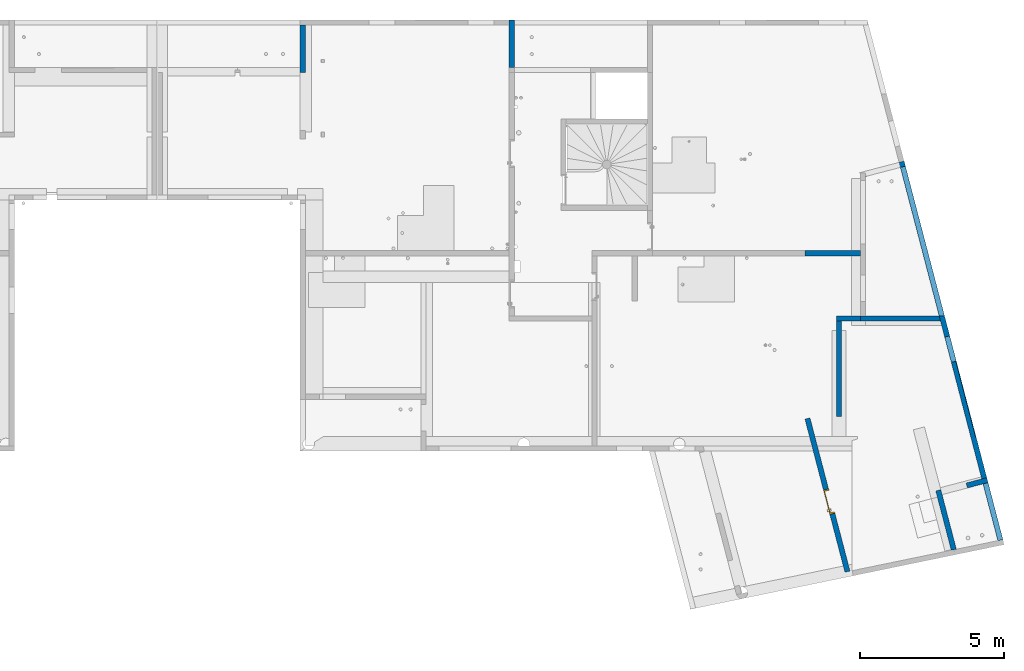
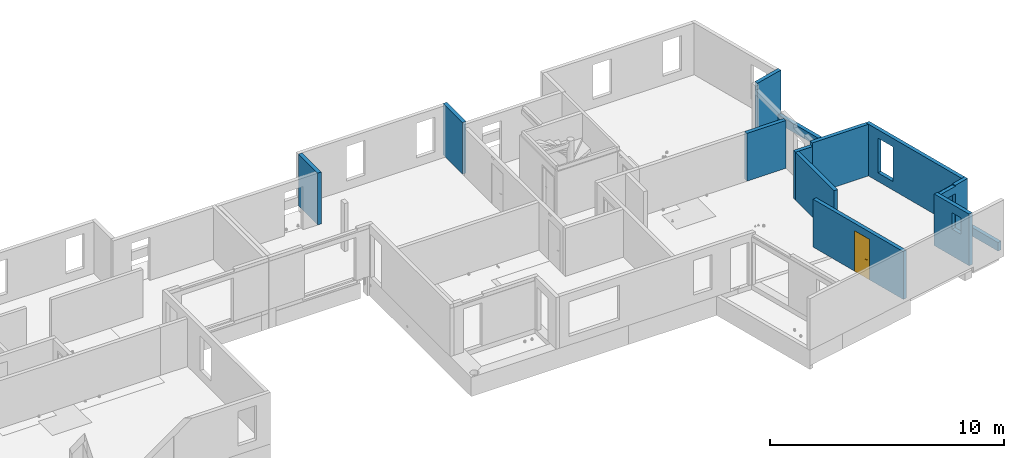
# One storey, part 18 of 34: 13 walls, 1 door, 9 openings.
"""IFC2X3 building model written with IfcOpenShell, lengths in centimetres."""

from ifc_helpers import new_model, entity, si_unit, converted_unit, derived_unit, direction, frame, frame_2d, origin, place, context, subcontext, project, spatial, polyline, rectangle, outline, extrude, faceted_brep, source, transform, mapped, material, material_list, layer, layer_set, layer_usage, type_object, type_shapes, element, fill, save


model = new_model("IFC2X3")

# Units and contexts
model_context = context("Model", 3, precision=0.001, world=origin(), true_north=direction((6.12303176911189e-17, 1.0)))
body_context = subcontext(model_context, "Body", "Model", "MODEL_VIEW")
ifc_project = project(units=[si_unit("LENGTHUNIT", "METRE", prefix="CENTI"), si_unit("AREAUNIT", "SQUARE_METRE"), si_unit("VOLUMEUNIT", "CUBIC_METRE"), converted_unit("PLANEANGLEUNIT", "DEGREE", entity("IfcRatioMeasure", 0.0174532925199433), si_unit("PLANEANGLEUNIT", "RADIAN"), dimensions=[0, 0, 0, 0, 0, 0, 0]), si_unit("MASSUNIT", "GRAM", prefix="KILO"), derived_unit("MASSDENSITYUNIT", [(si_unit("MASSUNIT", "GRAM", prefix="KILO"), 1), (si_unit("LENGTHUNIT", "METRE"), -3)]), si_unit("TIMEUNIT", "SECOND"), si_unit("FREQUENCYUNIT", "HERTZ"), si_unit("THERMODYNAMICTEMPERATUREUNIT", "DEGREE_CELSIUS"), derived_unit("THERMALTRANSMITTANCEUNIT", [(si_unit("MASSUNIT", "GRAM", prefix="KILO"), 1), (si_unit("THERMODYNAMICTEMPERATUREUNIT", "KELVIN"), -1), (si_unit("TIMEUNIT", "SECOND"), -3)]), derived_unit("VOLUMETRICFLOWRATEUNIT", [(si_unit("LENGTHUNIT", "METRE"), 3), (si_unit("TIMEUNIT", "SECOND"), -1)]), si_unit("ELECTRICCURRENTUNIT", "AMPERE"), si_unit("ELECTRICVOLTAGEUNIT", "VOLT"), si_unit("POWERUNIT", "WATT"), si_unit("FORCEUNIT", "NEWTON"), si_unit("ILLUMINANCEUNIT", "LUX"), si_unit("LUMINOUSFLUXUNIT", "LUMEN"), si_unit("LUMINOUSINTENSITYUNIT", "CANDELA"), derived_unit("USERDEFINED", [(si_unit("MASSUNIT", "GRAM", prefix="KILO"), -1), (si_unit("LENGTHUNIT", "METRE"), -2), (si_unit("TIMEUNIT", "SECOND"), 3), (si_unit("LUMINOUSFLUXUNIT", "LUMEN"), 1)]), derived_unit("LINEARVELOCITYUNIT", [(si_unit("LENGTHUNIT", "METRE"), 1), (si_unit("TIMEUNIT", "SECOND"), -1)]), si_unit("PRESSUREUNIT", "PASCAL"), derived_unit("USERDEFINED", [(si_unit("LENGTHUNIT", "METRE"), -2), (si_unit("MASSUNIT", "GRAM", prefix="KILO"), 1), (si_unit("TIMEUNIT", "SECOND"), -2)])], contexts=[model_context])

# Site, building, storey
site_placement = place(None, origin())
site = spatial("IfcSite", under=ifc_project, at=site_placement, Name="Default", CompositionType="ELEMENT")
building_placement = place(site_placement, origin())
building = spatial("IfcBuilding", under=site, at=building_placement, Name="CAGE 03", CompositionType="ELEMENT")
storey_placement = place(building_placement, frame((0.0, 0.0, 340.0)))
storey = spatial("IfcBuildingStorey", under=building, at=storey_placement, Name="R+1", CompositionType="ELEMENT", Elevation=340.0)

# Wall, openings
ifc_material_1 = material(Name="Béton, C25/30")
ifc_layer = layer(ifc_material_1, 18.0)
ifc_layer_set = layer_set([ifc_layer], Name="Mur de base:Voile BA 18")
ifc_layer_usage_1 = layer_usage(ifc_layer_set, "AXIS2", "POSITIVE", -9.0)
wall_type = type_object("IfcWallType", Name="Mur de base:Voile BA 18", PredefinedType="STANDARD", material=ifc_layer_set)
wall_1_placement = place(storey_placement, frame((11554.520882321, 3453.61460927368, 0.0), z_axis=(0.0, 0.0, 1.0), x_axis=(-0.252679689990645, 0.967549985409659, 0.0)))
wall_1 = element("IfcWallStandardCase", 1, at=wall_1_placement, inside=storey, type_object=wall_type, material=ifc_layer_usage_1, Name="Mur de base:Voile BA 18", ObjectType="Mur de base:Voile BA 18", context=body_context, shape_type="SweptSolid", body=[
    extrude(outline(polyline([(0.940291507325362, 9.0), (0.445619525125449, -0.469505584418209), (0.0, -9.0), (195.9684546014, -9.0), (213.9684546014, -9.0), (213.9684546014, 9.0), (0.940291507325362, 9.0)])), origin(), (0.0, 0.0, 1.0), 270.0),
])
opening_1_placement = place(wall_1_placement, origin())
element("IfcOpeningElement", 2, at=opening_1_placement, cuts=wall_1, Name="Mur de base:Voile BA 18", ObjectType="Opening", context=body_context, shape_type="SweptSolid", body=[
    extrude(rectangle(XDim=226.0, YDim=18.0000000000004, at=frame_2d((-4.2810199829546e-13, -5.6843418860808e-14), x_axis=(0.0, 1.0))), frame((204.968454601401, -100.0, 113.0), z_axis=(0.0, 1.0, 0.0), x_axis=(1.0, 0.0, 0.0)), (0.0, 0.0, 1.0), 91.0000000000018),
])
opening_2_placement = place(wall_1_placement, origin())
element("IfcOpeningElement", 3, at=opening_2_placement, cuts=wall_1, Name="Mur de base:Voile BA 18", ObjectType="Opening", context=body_context, shape_type="SweptSolid", body=[
    extrude(rectangle(XDim=226.0, YDim=18.0000000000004, at=frame_2d((-4.2810199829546e-13, 5.6843418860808e-14), x_axis=(0.0, 1.0))), frame((204.968454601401, -100.0, 383.0), z_axis=(0.0, 1.0, 0.0), x_axis=(1.0, 0.0, 0.0)), (0.0, 0.0, 1.0), 91.0000000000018),
])
opening_3_placement = place(wall_1_placement, frame((-421.952010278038, 12052.2347799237, 0.0), z_axis=(0.0, 0.0, 1.0), x_axis=(-0.252679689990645, -0.967549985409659, 0.0)))
element("IfcOpeningElement", 4, at=opening_3_placement, cuts=wall_1, Name="Mur de base:Voile BA 18", ObjectType="Opening", context=body_context, shape_type="SweptSolid", body=[
    extrude(rectangle(XDim=85.9999999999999, YDim=54.9999999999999, at=frame_2d((0.0, -4.2810199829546e-13), x_axis=(1.0, 0.0))), frame((11691.1087448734, 3569.35171335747, 183.0), z_axis=(-0.967549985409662, -0.252679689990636, 0.0), x_axis=(0.0, 0.0, 1.0)), (0.0, 0.0, 1.0), 304.799999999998),
])

ifc_layer_usage_2 = layer_usage(ifc_layer_set, "AXIS2", "POSITIVE", -9.0)
wall_2_placement = place(storey_placement, frame((11511.4374666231, 3654.20595174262, 0.0), z_axis=(0.0, 0.0, 1.0), x_axis=(0.967549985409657, 0.252679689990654, 0.0)))
wall_2 = element("IfcWallStandardCase", 5, at=wall_2_placement, inside=storey, type_object=wall_type, material=ifc_layer_usage_2, Name="Mur de base:Voile BA 18", ObjectType="Mur de base:Voile BA 18", context=body_context, shape_type="SweptSolid", body=[
    extrude(rectangle(XDim=165.000000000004, YDim=17.9999999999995, at=frame_2d((82.5000000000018, -2.64677169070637e-13), x_axis=(-1.0, 0.0))), origin(), (0.0, 0.0, 1.0), 270.0),
])
opening_4_placement = place(wall_2_placement, frame((-5.86752552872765, -7.46767138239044, 265.0)))
element("IfcOpeningElement", 6, at=opening_4_placement, cuts=wall_2, Name="Mur de base:Voile BA 18", ObjectType="Opening", context=body_context, shape_type="Brep", body=[
    faceted_brep([(5.86752552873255, 22.4676713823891, 2.50000000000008), (5.8675255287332, 15.467671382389, 0.971325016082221), (5.8675255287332, 15.467671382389, 0.0), (5.86752552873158, -1.53232861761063, 0.0), (5.86752552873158, -1.53232861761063, 5.0), (5.86752552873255, 22.4676713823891, 5.0), (96.8675255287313, 22.46767138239, 2.50000000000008), (96.8675255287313, 22.46767138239, 5.0), (96.8675255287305, -1.53232861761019, 5.0), (96.8675255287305, -1.53232861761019, 0.0), (96.8675255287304, 15.4676713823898, 0.0), (96.8675255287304, 15.4676713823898, 0.971325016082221)], [[[0, 1, 2, 3, 4, 5]], [[6, 7, 8, 9, 10, 11]], [[4, 3, 9, 8]], [[5, 4, 8, 7]], [[0, 5, 7, 6]], [[1, 0, 6, 11]], [[2, 1, 11, 10]], [[3, 2, 10, 9]]]),
])
opening_5_placement = place(wall_2_placement, origin())
element("IfcOpeningElement", 7, at=opening_5_placement, cuts=wall_2, Name="Mur de base:Voile BA 18", ObjectType="Opening", context=body_context, shape_type="SweptSolid", body=[
    extrude(rectangle(XDim=226.0, YDim=90.9999999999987, at=frame_2d((5.6843418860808e-14, -5.6843418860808e-14), x_axis=(0.0, 1.0))), frame((45.5000000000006, -161.4, 383.0), z_axis=(0.0, 1.0, 0.0), x_axis=(-1.0, 0.0, 0.0)), (0.0, 0.0, 1.0), 304.799999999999),
])
opening_6_placement = place(wall_2_placement, frame((-12061.2347799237, -626.920464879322, 0.0), z_axis=(0.0, 0.0, 1.0), x_axis=(0.967549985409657, -0.252679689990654, 0.0)))
element("IfcOpeningElement", 8, at=opening_6_placement, cuts=wall_2, Name="Mur de base:Voile BA 18", ObjectType="Opening", context=body_context, shape_type="SweptSolid", body=[
    extrude(rectangle(XDim=226.0, YDim=90.9999999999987, at=frame_2d((5.6843418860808e-14, 0.0), x_axis=(0.0, 1.0))), frame((11596.2434929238, 3509.54030999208, 113.0), z_axis=(-0.252679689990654, 0.967549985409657, 0.0), x_axis=(-0.967549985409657, -0.252679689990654, 0.0)), (0.0, 0.0, 1.0), 304.799999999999),
])

ifc_layer_usage_3 = layer_usage(ifc_layer_set, "AXIS2", "POSITIVE", -9.0)
wall_3_placement = place(storey_placement, frame((11660.1011471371, 3702.33193324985, 0.0), z_axis=(0.0, 0.0, 1.0), x_axis=(-0.25267968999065, 0.967549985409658, 0.0)))
wall_3 = element("IfcWallStandardCase", 9, at=wall_3_placement, inside=storey, type_object=wall_type, material=ifc_layer_usage_3, Name="Mur de base:Voile BA 18", ObjectType="Mur de base:Voile BA 18", context=body_context, shape_type="SweptSolid", body=[
    extrude(outline(polyline([(580.904991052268, -9.0), (585.605765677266, 9.0), (567.002075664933, 9.0), (243.0, 9.0), (0.0, 9.0), (0.0, -9.0), (243.0, -9.0), (580.904991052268, -9.0)])), origin(), (0.0, 0.0, 1.0), 270.0),
])
opening_7_placement = place(wall_3_placement, origin())
element("IfcOpeningElement", 10, at=opening_7_placement, cuts=wall_3, Name="Mur de base:Voile BA 18", ObjectType="Recess", context=body_context, shape_type="SweptSolid", body=[
    extrude(rectangle(XDim=181.0, YDim=273.0, at=frame_2d((-2.1316282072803e-13, 0.0), x_axis=(0.0, 1.0))), frame((281.500000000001, -9.0, 135.5), z_axis=(0.0, 1.0, 0.0), x_axis=(1.0, 0.0, 0.0)), (0.0, 0.0, 1.0), 1.99999999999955),
])
opening_8_placement = place(wall_3_placement, frame((-635.920464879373, 12217.2347799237, 0.0), z_axis=(0.0, 0.0, 1.0), x_axis=(-0.25267968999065, -0.967549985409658, 0.0)))
element("IfcOpeningElement", 11, at=opening_8_placement, cuts=wall_3, Name="Mur de base:Voile BA 18", ObjectType="Opening", context=body_context, shape_type="SweptSolid", body=[
    extrude(rectangle(XDim=181.0, YDim=91.0000000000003, at=frame_2d((0.0, -2.16715534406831e-13), x_axis=(1.0, 0.0))), frame((11699.1466784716, 4191.57385345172, 135.5), z_axis=(-0.967549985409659, -0.252679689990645, 0.0), x_axis=(0.0, 0.0, 1.0)), (0.0, 0.0, 1.0), 304.8),
])

# Walls
ifc_layer_usage_4 = layer_usage(ifc_layer_set, "AXIS2", "POSITIVE", -9.0)
wall_4_placement = place(storey_placement, frame((11508.1232885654, 4257.66066607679, 0.0), z_axis=(0.0, 0.0, 1.0), x_axis=(-1.0, 0.0, 0.0)))
element("IfcWallStandardCase", 12, at=wall_4_placement, inside=storey, type_object=wall_type, material=ifc_layer_usage_4, Name="Mur de base:Voile BA 18", ObjectType="Mur de base:Voile BA 18", context=body_context, shape_type="SweptSolid", body=[
    extrude(outline(polyline([(277.7574684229, -9.0), (277.7574684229, 9.0), (259.757468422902, 9.0), (0.0, 9.0), (4.70077462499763, -9.0), (259.7574684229, -9.0), (277.7574684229, -9.0)])), origin(), (0.0, 0.0, 1.0), 270.0),
])
ifc_layer_usage_5 = layer_usage(ifc_layer_set, "AXIS2", "POSITIVE", -9.0)
wall_5_placement = place(storey_placement, frame((11155.8658201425, 4248.66066607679, 0.0), z_axis=(0.0, 0.0, 1.0), x_axis=(0.0, -1.0, 0.0)))
element("IfcWallStandardCase", 13, at=wall_5_placement, inside=storey, type_object=wall_type, material=ifc_layer_usage_5, Name="Mur de base:Voile BA 18", ObjectType="Mur de base:Voile BA 18", context=body_context, shape_type="SweptSolid", body=[
    extrude(rectangle(XDim=331.0, YDim=17.9999999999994, at=frame_2d((165.5, 4.11226608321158e-13), x_axis=(-1.0, 0.0))), origin(), (0.0, 0.0, 1.0), 250.0),
])

# Wall, opening, door
ifc_layer_usage_6 = layer_usage(ifc_layer_set, "AXIS2", "POSITIVE", -9.0)
wall_6_placement = place(storey_placement, frame((11046.2188604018, 3909.95367592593, 0.0), z_axis=(0.0, 0.0, 1.0), x_axis=(0.252679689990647, -0.967549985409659, 0.0)))
wall_6 = element("IfcWallStandardCase", 14, at=wall_6_placement, inside=storey, type_object=wall_type, material=ifc_layer_usage_6, Name="Mur de base:Voile BA 18", ObjectType="Mur de base:Voile BA 18", context=body_context, shape_type="SweptSolid", body=[
    extrude(outline(polyline([(0.0, -9.0), (549.360399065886, -9.0), (550.300690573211, 9.0), (0.0, 9.0), (0.0, -9.0)])), origin(), (0.0, 0.0, 1.0), 250.0),
])
opening_9_placement = place(wall_6_placement, frame((341.979584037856, 9.0, 0.0)))
opening_9 = element("IfcOpeningElement", 15, at=opening_9_placement, cuts=wall_6, Name="Int. Simple:HB83:1", ObjectType="Opening", context=body_context, shape_type="SweptSolid", body=[
    extrude(rectangle(XDim=210.000000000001, YDim=86.9999999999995, at=frame_2d((105.000000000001, 43.4999999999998), x_axis=(1.0, 0.0))), frame((0.0, 0.0, 0.0), z_axis=(0.0, -1.0, 0.0), x_axis=(0.0, 0.0, 1.0)), (0.0, 0.0, 1.0), 18.0),
])
ifc_material_2 = material(Name="Finition Peinture - Blanc satiné")
ifc_material_3 = material(Name="Bois - Panneau de porte")
ifc_material_4 = material(Name="Bois - Cadre de porte")
ifc_material_list_1 = material_list([ifc_material_2, ifc_material_3, ifc_material_4])
ifc_material_list_2 = material_list([ifc_material_2, ifc_material_3, ifc_material_4])
door_style = type_object("IfcDoorStyle", Name="HB83", ConstructionType="NOTDEFINED", OperationType="SINGLE_SWING_RIGHT", ParameterTakesPrecedence=False, Sizeable=False, material=ifc_material_list_2)
shared_shape = source(origin(), body_context, "Body", "Brep", [
    faceted_brep([(86.5000000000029, -0.500000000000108, 87.0), (86.5000000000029, -0.500000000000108, 108.0), (85.535276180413, -0.500000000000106, 108.399601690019), (84.5000000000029, -0.500000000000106, 108.535898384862), (83.4647238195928, -0.500000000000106, 108.399601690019), (82.500000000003, -0.500000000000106, 108.0), (82.5000000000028, -0.500000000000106, 87.0), (83.4647238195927, -0.500000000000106, 86.6003983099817), (84.5000000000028, -0.500000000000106, 86.464101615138), (85.5352761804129, -0.500000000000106, 86.6003983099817), (86.5000000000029, 0.0, 108.0), (86.5000000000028, 0.0, 87.0), (85.5352761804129, 0.0, 86.6003983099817), (84.5000000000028, 0.0, 86.464101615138), (83.4647238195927, 0.0, 86.6003983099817), (82.5000000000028, 0.0, 87.0), (82.500000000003, 0.0, 108.0), (83.4647238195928, 0.0, 108.399601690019), (84.5000000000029, 0.0, 108.535898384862), (85.535276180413, 0.0, 108.399601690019)], [[[0, 1, 2, 3, 4, 5, 6, 7, 8, 9]], [[10, 11, 12, 13, 14, 15, 16, 17, 18, 19]], [[9, 12, 11, 0]], [[8, 13, 12, 9]], [[7, 14, 13, 8]], [[7, 6, 15, 14]], [[15, 6, 5, 16]], [[4, 17, 16, 5]], [[3, 18, 17, 4]], [[2, 19, 18, 3]], [[2, 1, 10, 19]], [[11, 10, 1, 0]]]),
    faceted_brep([(86.5000000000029, 3.0, 87.0), (86.5000000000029, 3.0, 108.0), (85.535276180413, 3.0, 108.399601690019), (84.500000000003, 3.0, 108.535898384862), (83.4647238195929, 3.0, 108.399601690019), (82.500000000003, 3.0, 108.0), (82.5000000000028, 3.0, 87.0), (83.4647238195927, 3.0, 86.6003983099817), (84.5000000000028, 3.0, 86.464101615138), (85.5352761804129, 3.0, 86.6003983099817), (84.500000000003, 3.49999999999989, 108.535898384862), (85.535276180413, 3.49999999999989, 108.399601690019), (86.5000000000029, 3.49999999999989, 108.0), (86.5000000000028, 3.49999999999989, 87.0), (85.5352761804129, 3.49999999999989, 86.6003983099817), (84.5000000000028, 3.49999999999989, 86.464101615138), (83.4647238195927, 3.49999999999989, 86.6003983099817), (82.5000000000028, 3.49999999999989, 87.0), (82.500000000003, 3.49999999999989, 108.0), (83.4647238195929, 3.49999999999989, 108.399601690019)], [[[0, 1, 2, 3, 4, 5, 6, 7, 8, 9]], [[10, 11, 12, 13, 14, 15, 16, 17, 18, 19]], [[4, 19, 18, 5]], [[3, 10, 19, 4]], [[2, 11, 10, 3]], [[2, 1, 12, 11]], [[13, 12, 1, 0]], [[9, 14, 13, 0]], [[8, 15, 14, 9]], [[7, 16, 15, 8]], [[7, 6, 17, 16]], [[17, 6, 5, 18]]]),
    faceted_brep([(84.297470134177, -0.500000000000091, 100.778044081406), (84.7025298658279, -0.500000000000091, 100.778044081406), (85.1000000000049, -0.500000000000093, 100.699999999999), (85.1000000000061, -0.500000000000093, 99.299999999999), (84.702529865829, -0.500000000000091, 99.2219559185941), (84.297470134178, -0.500000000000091, 99.2219559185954), (83.9000000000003, -0.500000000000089, 99.3000000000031), (83.9000000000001, -0.500000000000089, 100.7), (84.7025298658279, -3.1004575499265, 100.778044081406), (85.1000000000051, -3.26509507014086, 100.7), (84.297470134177, -2.93267631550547, 100.778044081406), (82.9298602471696, -4.30028620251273, 100.778044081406), (83.0976414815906, -4.70534593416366, 100.778044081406), (83.9000000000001, -2.76803879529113, 100.7), (83.9000000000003, -2.76803879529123, 99.3000000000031), (84.297470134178, -2.93267631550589, 99.2219559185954), (84.702529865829, -3.10045754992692, 99.2219559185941), (83.097641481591, -4.70534593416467, 99.2219559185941), (82.92986024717, -4.30028620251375, 99.2219559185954), (85.1000000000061, -3.26509507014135, 99.299999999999), (83.2622790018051, -5.10281606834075, 100.7), (82.7652227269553, -3.90281606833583, 100.7), (82.7652227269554, -3.90281606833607, 99.3000000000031), (83.2622790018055, -5.10281606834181, 99.299999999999), (74.4981359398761, -5.1028160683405, 100.7), (74.4981359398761, -4.7053459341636, 100.778044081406), (74.4981359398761, -4.30028620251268, 100.778044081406), (74.4981359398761, -3.90281606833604, 100.699999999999), (74.4981359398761, -3.90281606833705, 99.3000000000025), (74.4981359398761, -4.30028620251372, 99.2219559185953), (74.4981359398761, -4.70534593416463, 99.2219559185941), (74.4981359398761, -5.10281606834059, 99.2999999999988), (78.7139980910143, -4.50281606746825, 100.78786867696), (79.2692302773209, -5.10281606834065, 100.7), (78.6316793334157, -3.90281606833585, 100.7), (78.6316793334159, -3.90281606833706, 99.3000000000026), (78.7139981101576, -4.50281607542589, 99.2121313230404), (79.2692299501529, -5.10281606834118, 99.2999999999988)], [[[0, 1, 2, 3, 4, 5, 6, 7]], [[2, 1, 8, 9]], [[1, 0, 10, 11, 12, 8]], [[0, 7, 13, 10]], [[14, 13, 7, 6]], [[5, 15, 14, 6]], [[5, 4, 16, 17, 18, 15]], [[3, 19, 16, 4]], [[9, 19, 3, 2]], [[9, 8, 12, 20]], [[10, 13, 21, 11]], [[22, 21, 13, 14]], [[14, 15, 18, 22]], [[16, 19, 23, 17]], [[20, 23, 19, 9]], [[24, 25, 26, 27, 28, 29, 30, 31]], [[32, 25, 33]], [[33, 25, 24]], [[33, 20, 12]], [[11, 34, 32]], [[34, 11, 21]], [[27, 26, 34]], [[32, 26, 25]], [[32, 34, 26]], [[32, 33, 12]], [[11, 32, 12]], [[21, 22, 35, 28, 27, 34]], [[36, 29, 35]], [[30, 36, 37]], [[18, 35, 22]], [[29, 28, 35]], [[30, 37, 31]], [[37, 17, 23]], [[36, 17, 37]], [[36, 18, 17]], [[36, 35, 18]], [[29, 36, 30]], [[23, 20, 33, 24, 31, 37]]]),
    faceted_brep([(84.2974701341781, 3.49999999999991, 99.2219559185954), (84.702529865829, 3.49999999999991, 99.2219559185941), (85.1000000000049, 3.4999999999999, 99.2999999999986), (85.1000000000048, 3.4999999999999, 100.7), (84.7025298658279, 3.49999999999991, 100.778044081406), (84.297470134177, 3.49999999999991, 100.778044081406), (83.9000000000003, 3.49999999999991, 100.7), (83.9000000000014, 3.49999999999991, 99.3000000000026), (83.9000000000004, 5.74852045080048, 100.7), (83.9000000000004, 5.74852045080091, 99.3000000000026), (84.2974701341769, 5.91315797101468, 100.778044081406), (84.7025298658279, 6.08093920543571, 100.778044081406), (83.0838906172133, 7.69957845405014, 100.778044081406), (82.9161093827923, 7.29451872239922, 100.778044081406), (85.1000000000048, 6.24557672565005, 100.7), (85.1000000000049, 6.2455767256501, 99.2999999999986), (84.702529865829, 6.08093920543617, 99.2219559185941), (84.2974701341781, 5.91315797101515, 99.2219559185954), (82.9161093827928, 7.29451872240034, 99.2219559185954), (83.0838906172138, 7.69957845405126, 99.2219559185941), (82.7514718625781, 6.89704858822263, 100.7), (82.7514718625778, 6.89704858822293, 99.3000000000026), (83.2485281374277, 8.09704858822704, 100.7), (83.2485281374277, 8.09704858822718, 99.2999999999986), (74.4954216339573, 7.29451872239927, 100.778044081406), (74.4954216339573, 7.6995784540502, 100.778044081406), (74.4954216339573, 8.0970485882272, 100.7), (74.4954216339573, 8.09704858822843, 99.299999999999), (74.4954216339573, 7.6995784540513, 99.2219559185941), (74.4954216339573, 7.29451872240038, 99.2219559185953), (74.4954216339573, 6.89704858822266, 99.3000000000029), (74.4954216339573, 6.89704858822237, 100.7), (78.6234467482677, 6.89704858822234, 100.7), (78.6234479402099, 6.89704858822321, 99.3000000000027), (78.7057655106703, 7.4970485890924, 100.78786867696), (79.255479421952, 8.09704858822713, 100.7), (79.2554794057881, 8.09704858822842, 99.299999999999), (78.7057654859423, 7.49704858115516, 99.2121313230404)], [[[0, 1, 2, 3, 4, 5, 6, 7]], [[8, 9, 7, 6]], [[5, 10, 8, 6]], [[5, 4, 11, 12, 13, 10]], [[3, 14, 11, 4]], [[14, 3, 2, 15]], [[2, 1, 16, 15]], [[1, 0, 17, 18, 19, 16]], [[0, 7, 9, 17]], [[20, 21, 9, 8]], [[8, 10, 13, 20]], [[14, 22, 12, 11]], [[23, 22, 14, 15]], [[15, 16, 19, 23]], [[17, 9, 21, 18]], [[24, 25, 26, 27, 28, 29, 30, 31]], [[20, 32, 31, 30, 33, 21]], [[34, 24, 32]], [[25, 34, 35]], [[13, 32, 20]], [[24, 31, 32]], [[25, 35, 26]], [[35, 12, 22]], [[34, 12, 35]], [[34, 13, 12]], [[34, 32, 13]], [[24, 34, 25]], [[22, 23, 36, 27, 26, 35]], [[37, 28, 36]], [[36, 28, 27]], [[36, 23, 19]], [[18, 33, 37]], [[33, 18, 21]], [[30, 29, 33]], [[37, 29, 28]], [[37, 33, 29]], [[37, 36, 19]], [[18, 37, 19]]]),
    faceted_brep([(90.5000000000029, 3.0, 206.5), (90.5000000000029, 3.0, 0.0), (10.5000000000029, 3.0, 0.0), (10.5000000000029, 3.0, 206.5), (90.5000000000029, 0.0, 206.5), (10.5000000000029, 0.0, 206.5), (10.5000000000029, 0.0, 0.0), (90.5000000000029, 0.0, 0.0)], [[[0, 1, 2, 3]], [[4, 5, 6, 7]], [[3, 5, 4, 0]], [[2, 6, 5, 3]], [[1, 7, 6, 2]], [[0, 4, 7, 1]]]),
    faceted_brep([(94.0, 0.0, 0.0), (90.5000000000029, 0.0, 0.0), (90.5000000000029, 3.0, 0.0), (89.0, 3.0, 0.0), (89.0, 18.0, 0.0), (94.0, 18.0, 0.0), (94.0, 18.0, 210.0), (94.0, 0.0, 210.0), (89.0, 18.0, 205.0), (12.0, 18.0, 205.0), (12.0, 18.0, 0.0), (7.0, 18.0, 0.0), (7.0, 18.0, 210.0), (89.0, 3.0, 205.0), (90.5000000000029, 3.0, 206.5), (10.5000000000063, 3.0, 206.5), (10.5000000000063, 3.0, 0.0), (12.0, 3.0, 0.0), (12.0, 3.0, 205.0), (90.5000000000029, 0.0, 206.5), (7.0, 0.0, 210.0), (7.0, 0.0, 0.0), (10.5000000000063, 0.0, 0.0), (10.5000000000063, 0.0, 206.5)], [[[0, 1, 2, 3, 4, 5]], [[5, 6, 7, 0]], [[4, 8, 9, 10, 11, 12, 6, 5]], [[3, 13, 8, 4]], [[2, 14, 15, 16, 17, 18, 13, 3]], [[1, 19, 14, 2]], [[0, 7, 20, 21, 22, 23, 19, 1]], [[12, 11, 21, 20]], [[21, 11, 10, 17, 16, 22]], [[18, 17, 10, 9]], [[23, 22, 16, 15]], [[6, 12, 20, 7]], [[13, 18, 9, 8]], [[19, 23, 15, 14]]]),
    faceted_brep([(92.5000000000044, 18.0, 0.0), (92.5000000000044, 18.5000000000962, 0.0), (95.5000000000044, 18.5000000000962, 0.0), (95.5000000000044, 18.0, 0.0), (95.5000000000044, 18.0, 211.500000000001), (5.50000000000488, 18.0, 211.500000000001), (5.50000000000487, 18.0, 0.0), (8.50000000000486, 18.0, 0.0), (8.50000000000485, 18.0, 208.500000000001), (92.5000000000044, 18.0, 208.500000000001), (95.5000000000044, 18.5000000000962, 211.500000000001), (92.5000000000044, 18.5000000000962, 208.500000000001), (8.50000000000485, 18.5000000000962, 208.500000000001), (8.50000000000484, 18.5000000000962, 0.0), (5.50000000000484, 18.5000000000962, 0.0), (5.50000000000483, 18.5000000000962, 211.500000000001)], [[[0, 1, 2, 3]], [[3, 4, 5, 6, 7, 8, 9, 0]], [[2, 10, 4, 3]], [[1, 11, 12, 13, 14, 15, 10, 2]], [[0, 9, 11, 1]], [[7, 6, 14, 13]], [[8, 7, 13, 12]], [[15, 14, 6, 5]], [[10, 15, 5, 4]], [[9, 8, 12, 11]]]),
    faceted_brep([(95.5000000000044, -0.5, 0.0), (95.5000000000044, -0.5, 211.500000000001), (5.50000000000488, -0.5, 211.500000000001), (5.50000000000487, -0.5, 0.0), (8.50000000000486, -0.5, 0.0), (8.50000000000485, -0.5, 208.500000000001), (92.5000000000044, -0.5, 208.500000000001), (92.5000000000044, -0.5, 0.0), (95.5000000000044, 0.0, 0.0), (95.5000000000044, 0.0, 211.500000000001), (92.5000000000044, 0.0, 0.0), (92.5000000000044, 0.0, 208.500000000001), (8.50000000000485, 0.0, 208.500000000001), (8.50000000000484, 0.0, 0.0), (5.50000000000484, 0.0, 0.0), (5.50000000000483, 0.0, 211.500000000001)], [[[0, 1, 2, 3, 4, 5, 6, 7]], [[8, 9, 1, 0]], [[10, 11, 12, 13, 14, 15, 9, 8]], [[7, 6, 11, 10]], [[5, 4, 13, 12]], [[15, 14, 3, 2]], [[9, 15, 2, 1]], [[6, 5, 12, 11]], [[4, 3, 14, 13]], [[7, 10, 8, 0]]]),
])
type_shapes(door_style, [shared_shape])
door_placement = place(opening_9_placement, frame((-94.0, -18.0, 0.0)))
door = element("IfcDoor", 16, at=door_placement, inside=storey, type_object=door_style, material=ifc_material_list_1, Name="Int. Simple:HB83", ObjectType="HB83", OverallHeight=210.000000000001, OverallWidth=86.9999999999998, context=body_context, shape_type="MappedRepresentation", body=[
    mapped(shared_shape, transform((0.0, 0.0, 0.0), scale=1.0)),
])
fill(opening_9, door)

# Walls
ifc_layer_usage_7 = layer_usage(ifc_layer_set, "AXIS2", "NEGATIVE", 9.0)
wall_7_placement = place(storey_placement, frame((11246.0917029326, 4759.00935292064, 0.0), z_axis=(0.0, 0.0, 1.0), x_axis=(0.96754998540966, 0.252679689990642, 0.0)))
element("IfcWallStandardCase", 17, at=wall_7_placement, inside=storey, type_object=wall_type, material=ifc_layer_usage_7, Name="Mur de base:Voile BA 18", ObjectType="Mur de base:Voile BA 18", context=body_context, shape_type="SweptSolid", body=[
    extrude(outline(polyline([(142.57390887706, -9.0), (142.57390887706, 9.0), (124.573908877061, 9.0), (4.70077462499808, 9.0), (2.87025505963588, 1.99065477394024), (0.596137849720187, -6.71729509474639), (0.0, -9.0), (9.33697134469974, -9.0), (124.573908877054, -9.0), (142.57390887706, -9.0)])), origin(), (0.0, 0.0, 1.0), 270.0),
])
ifc_layer_usage_8 = layer_usage(ifc_layer_set, "AXIS2", "POSITIVE", -9.0)
wall_8_placement = place(storey_placement, frame((11230.3658201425, 4483.66066607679, 0.0), z_axis=(0.0, 0.0, 1.0), x_axis=(-1.0, 0.0, 0.0)))
element("IfcWallStandardCase", 18, at=wall_8_placement, inside=storey, type_object=wall_type, material=ifc_layer_usage_8, Name="Mur de base:Voile BA 18", ObjectType="Mur de base:Voile BA 18", context=body_context, shape_type="SweptSolid", body=[
    extrude(rectangle(XDim=193.000000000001, YDim=17.9999999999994, at=frame_2d((96.5000000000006, -8.70414851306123e-14), x_axis=(-1.0, 0.0))), origin(), (0.0, 0.0, 1.0), 250.0),
])
ifc_layer_usage_9 = layer_usage(ifc_layer_set, "AXIS2", "POSITIVE", -9.0)
wall_9_placement = place(storey_placement, frame((9293.36582014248, 5275.66066607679, 0.0), z_axis=(0.0, 0.0, 1.0), x_axis=(0.0, -1.0, 0.0)))
element("IfcWallStandardCase", 19, at=wall_9_placement, inside=storey, type_object=wall_type, material=ifc_layer_usage_9, Name="Mur de base:Voile BA 18", ObjectType="Mur de base:Voile BA 18", context=body_context, shape_type="SweptSolid", body=[
    extrude(rectangle(XDim=165.000000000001, YDim=17.9999999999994, at=frame_2d((82.5000000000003, 0.0), x_axis=(-1.0, 0.0))), origin(), (0.0, 0.0, 1.0), 270.0),
])
ifc_layer_usage_10 = layer_usage(ifc_layer_set, "AXIS2", "POSITIVE", -9.0)
wall_10_placement = place(storey_placement, frame((11230.3658201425, 4257.66066607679, 0.0), z_axis=(0.0, 0.0, 1.0), x_axis=(-1.0, 0.0, 0.0)))
element("IfcWallStandardCase", 20, at=wall_10_placement, inside=storey, type_object=wall_type, material=ifc_layer_usage_10, Name="Mur de base:Voile BA 18", ObjectType="Mur de base:Voile BA 18", context=body_context, shape_type="SweptSolid", body=[
    extrude(rectangle(XDim=83.5000000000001, YDim=17.9999999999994, at=frame_2d((41.75, 1.31450406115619e-13), x_axis=(-1.0, 0.0))), origin(), (0.0, 0.0, 1.0), 250.0),
])
ifc_layer_usage_11 = layer_usage(ifc_layer_set, "AXIS2", "POSITIVE", -9.0)
wall_11_placement = place(storey_placement, frame((10019.3658201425, 5128.66066607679, 0.0), z_axis=(0.0, 0.0, 1.0), x_axis=(0.0, 1.0, 0.0)))
element("IfcWallStandardCase", 21, at=wall_11_placement, inside=storey, type_object=wall_type, material=ifc_layer_usage_11, Name="Mur de base:Voile BA 18", ObjectType="Mur de base:Voile BA 18", context=body_context, shape_type="SweptSolid", body=[
    extrude(rectangle(XDim=165.000000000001, YDim=17.9999999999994, at=frame_2d((82.5000000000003, 1.74082970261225e-13), x_axis=(-1.0, 0.0))), origin(), (0.0, 0.0, 1.0), 270.0),
])
ifc_layer_usage_12 = layer_usage(ifc_layer_set, "AXIS2", "NEGATIVE", 9.0)
wall_12_placement = place(storey_placement, frame((11377.6052537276, 4784.05281693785, 0.0), z_axis=(0.0, 0.0, 1.0), x_axis=(0.25267968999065, -0.967549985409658, 0.0)))
element("IfcWallStandardCase", 22, at=wall_12_placement, inside=storey, type_object=wall_type, material=ifc_layer_usage_12, Name="Mur de base:Voile BA 18", ObjectType="Mur de base:Voile BA 18", context=body_context, shape_type="SweptSolid", body=[
    extrude(outline(polyline([(532.394234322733, -9.0), (537.095008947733, 9.0), (0.0, 9.0), (0.0, -9.0), (532.394234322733, -9.0)])), origin(), (0.0, 0.0, 1.0), 45.0),
])
ifc_layer_usage_13 = layer_usage(ifc_layer_set, "AXIS2", "NEGATIVE", 9.0)
wall_13_placement = place(storey_placement, frame((11664.649381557, 3684.91603351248, 0.0), z_axis=(0.0, 0.0, 1.0), x_axis=(0.25267968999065, -0.967549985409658, 0.0)))
element("IfcWallStandardCase", 23, at=wall_13_placement, inside=storey, type_object=wall_type, material=ifc_layer_usage_13, Name="Mur de base:Voile BA 18", ObjectType="Mur de base:Voile BA 18", context=body_context, shape_type="SweptSolid", body=[
    extrude(outline(polyline([(203.647501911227, -9.0), (204.587793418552, 9.0), (202.585066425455, 9.0), (0.0, 9.0), (0.0, -9.0), (201.64477491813, -9.0), (203.647501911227, -9.0)])), origin(), (0.0, 0.0, 1.0), 45.0),
])

save(model, "model.ifc")
